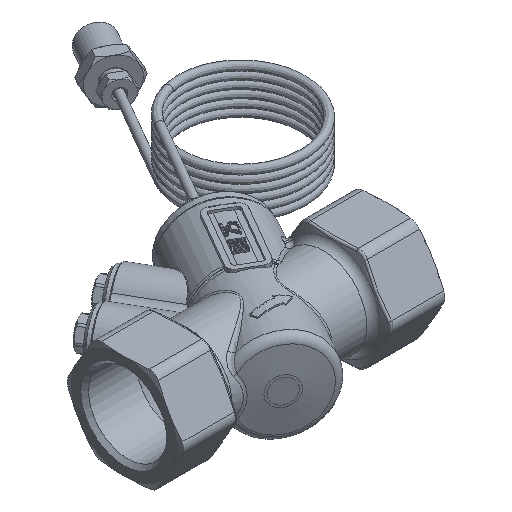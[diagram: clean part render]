
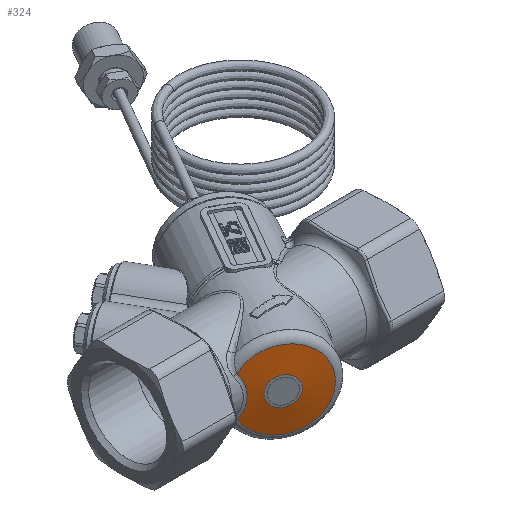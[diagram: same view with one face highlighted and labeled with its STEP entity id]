
A CAD part, isometric view. The second image highlights one B-rep face of the part: STEP entity #324.
In plain terms, the highlighted conical face has half-angle 85 degrees and reference radius 10.226 mm.
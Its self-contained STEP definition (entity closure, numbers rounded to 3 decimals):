
#324=ADVANCED_FACE('',(#3956,#3958),#3960,.T.);
#3956=FACE_BOUND('',#3957,.T.);
#3957=EDGE_LOOP('',(#14134,#14135,#14136));
#3958=FACE_OUTER_BOUND('',#3959,.T.);
#3959=EDGE_LOOP('',(#14137));
#3960=CONICAL_SURFACE('',#3961,10.226,1.484);
#3961=AXIS2_PLACEMENT_3D('',#3962,#3963,#3964);
#3962=CARTESIAN_POINT('',(-12.779,-22.134,0.));
#3963=DIRECTION('',(0.5,0.866,0.));
#3964=DIRECTION('',(-0.866,0.5,0.));
#14134=ORIENTED_EDGE('',*,*,#15810,.T.);
#14135=ORIENTED_EDGE('',*,*,#15865,.T.);
#14136=ORIENTED_EDGE('',*,*,#15811,.T.);
#14137=ORIENTED_EDGE('',*,*,#15946,.F.);
#15810=EDGE_CURVE('',#17379,#17377,#17380,.T.);
#15811=EDGE_CURVE('',#17381,#17379,#17382,.T.);
#15865=EDGE_CURVE('',#17377,#17381,#17459,.T.);
#15946=EDGE_CURVE('',#17592,#17592,#17593,.T.);
#17377=VERTEX_POINT('',#23137);
#17379=VERTEX_POINT('',#23158);
#17380=CIRCLE('',#23159,15.011);
#17381=VERTEX_POINT('',#23163);
#17382=CIRCLE('',#23164,15.011);
#17459=B_SPLINE_CURVE_WITH_KNOTS('',3,
(#23848,#23849,#23850,#23851,#23852,#23853,#23854,#23855,#23856,#23857,#23858,#23859,
#23860,#23861,#23862,#23863,#23864,#23865,#23866,#23867,#23868,#23869,#23870,#23871,
#23872,#23873,#23874,#23875,#23876,#23877,#23878,#23879),
.UNSPECIFIED.,.F.,.F.,
(4,1,1,1,1,1,1,1,1,1,1,1,1,1,1,1,1,1,1,1,1,1,1,1,1,1,1,1,1,4),
(0.,0.066,0.12,0.161,0.196,0.226,
0.252,0.276,0.302,0.328,0.356,
0.388,0.422,0.46,0.493,0.524,
0.552,0.579,0.606,0.632,0.653,
0.672,0.692,0.716,0.749,0.794,
0.849,0.903,0.954,1.),
.UNSPECIFIED.);
#17592=VERTEX_POINT('',#25031);
#17593=CIRCLE('',#25032,5.44);
#23137=CARTESIAN_POINT('',(-23.678,-15.358,7.799));
#23158=CARTESIAN_POINT('',(0.431,-29.277,0.));
#23159=AXIS2_PLACEMENT_3D('',#23160,#23161,#23162);
#23160=CARTESIAN_POINT('',(-12.57,-21.772,0.));
#23161=DIRECTION('',(-0.5,-0.866,0.));
#23162=DIRECTION('',(0.866,-0.5,0.));
#23163=CARTESIAN_POINT('',(-23.678,-15.358,-7.799));
#23164=AXIS2_PLACEMENT_3D('',#23165,#23166,#23167);
#23165=CARTESIAN_POINT('',(-12.57,-21.772,0.));
#23166=DIRECTION('',(-0.5,-0.866,0.));
#23167=DIRECTION('',(-0.74,0.427,-0.52));
#23848=CARTESIAN_POINT('',(-23.678,-15.358,7.799));
#23849=CARTESIAN_POINT('',(-23.502,-15.494,7.506));
#23850=CARTESIAN_POINT('',(-23.192,-15.735,6.957));
#23851=CARTESIAN_POINT('',(-22.822,-16.027,6.189));
#23852=CARTESIAN_POINT('',(-22.551,-16.244,5.544));
#23853=CARTESIAN_POINT('',(-22.352,-16.405,5.01));
#23854=CARTESIAN_POINT('',(-22.195,-16.533,4.535));
#23855=CARTESIAN_POINT('',(-22.07,-16.636,4.115));
#23856=CARTESIAN_POINT('',(-21.961,-16.726,3.709));
#23857=CARTESIAN_POINT('',(-21.864,-16.808,3.299));
#23858=CARTESIAN_POINT('',(-21.774,-16.883,2.866));
#23859=CARTESIAN_POINT('',(-21.691,-16.953,2.394));
#23860=CARTESIAN_POINT('',(-21.617,-17.016,1.874));
#23861=CARTESIAN_POINT('',(-21.556,-17.068,1.291));
#23862=CARTESIAN_POINT('',(-21.518,-17.101,0.697));
#23863=CARTESIAN_POINT('',(-21.503,-17.114,0.124));
#23864=CARTESIAN_POINT('',(-21.508,-17.11,-0.392));
#23865=CARTESIAN_POINT('',(-21.528,-17.092,-0.876));
#23866=CARTESIAN_POINT('',(-21.562,-17.064,-1.336));
#23867=CARTESIAN_POINT('',(-21.607,-17.025,-1.781));
#23868=CARTESIAN_POINT('',(-21.661,-16.979,-2.19));
#23869=CARTESIAN_POINT('',(-21.719,-16.93,-2.554));
#23870=CARTESIAN_POINT('',(-21.778,-16.879,-2.882));
#23871=CARTESIAN_POINT('',(-21.848,-16.821,-3.225));
#23872=CARTESIAN_POINT('',(-21.943,-16.741,-3.64));
#23873=CARTESIAN_POINT('',(-22.087,-16.622,-4.185));
#23874=CARTESIAN_POINT('',(-22.302,-16.446,-4.877));
#23875=CARTESIAN_POINT('',(-22.593,-16.21,-5.661));
#23876=CARTESIAN_POINT('',(-22.94,-15.934,-6.446));
#23877=CARTESIAN_POINT('',(-23.303,-15.649,-7.158));
#23878=CARTESIAN_POINT('',(-23.555,-15.453,-7.595));
#23879=CARTESIAN_POINT('',(-23.678,-15.358,-7.799));
#25031=CARTESIAN_POINT('',(-8.277,-25.217,0.));
#25032=AXIS2_PLACEMENT_3D('',#25033,#25034,#25035);
#25033=CARTESIAN_POINT('',(-12.988,-22.497,0.));
#25034=DIRECTION('',(-0.5,-0.866,0.));
#25035=DIRECTION('',(0.866,-0.5,0.));
